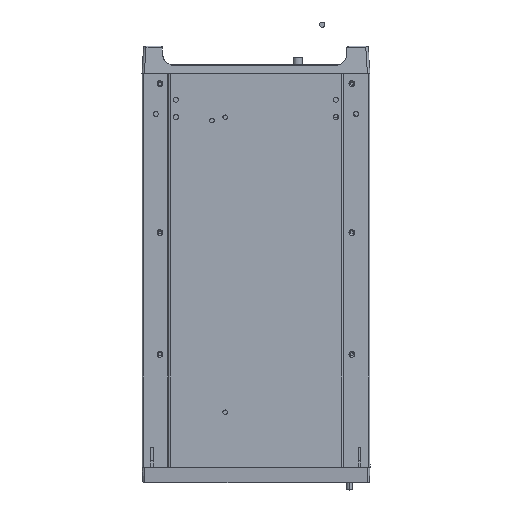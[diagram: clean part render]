
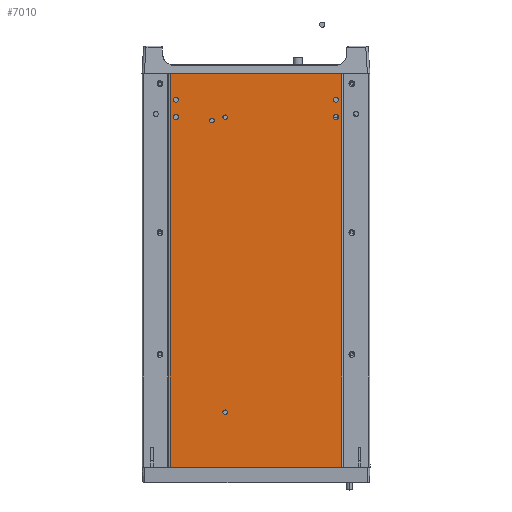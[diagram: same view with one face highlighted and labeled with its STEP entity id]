
A CAD part, front view. The second image highlights one B-rep face of the part: STEP entity #7010.
In plain terms, the highlighted planar face has unit normal (0, -1, 0).
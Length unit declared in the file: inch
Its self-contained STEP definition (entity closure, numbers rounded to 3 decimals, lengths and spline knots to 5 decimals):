
#1997=DIRECTION('',(0.,0.,1.));
#1998=VECTOR('',#1997,14.55);
#1999=CARTESIAN_POINT('',(-3.173,0.,-14.57));
#2000=LINE('',#1999,#1998);
#2006=DIRECTION('',(-1.,0.,0.));
#2007=VECTOR('',#2006,6.346);
#2008=CARTESIAN_POINT('',(3.173,0.,-14.57));
#2009=LINE('',#2008,#2007);
#2010=DIRECTION('',(-1.,0.,0.));
#2011=VECTOR('',#2010,6.346);
#2012=CARTESIAN_POINT('',(3.173,0.,-0.02));
#2013=LINE('',#2012,#2011);
#2014=CARTESIAN_POINT('',(-2.955,0.,-0.99));
#2015=DIRECTION('',(0.,1.,0.));
#2016=DIRECTION('',(1.,0.,0.));
#2017=AXIS2_PLACEMENT_3D('',#2014,#2015,#2016);
#2019=CARTESIAN_POINT('',(-2.955,0.,-0.99));
#2020=DIRECTION('',(0.,1.,0.));
#2021=DIRECTION('',(-1.,0.,0.));
#2022=AXIS2_PLACEMENT_3D('',#2019,#2020,#2021);
#2024=CARTESIAN_POINT('',(2.955,0.,-0.99));
#2025=DIRECTION('',(0.,1.,0.));
#2026=DIRECTION('',(1.,0.,0.));
#2027=AXIS2_PLACEMENT_3D('',#2024,#2025,#2026);
#2029=CARTESIAN_POINT('',(2.955,0.,-0.99));
#2030=DIRECTION('',(0.,1.,0.));
#2031=DIRECTION('',(-1.,0.,0.));
#2032=AXIS2_PLACEMENT_3D('',#2029,#2030,#2031);
#2034=CARTESIAN_POINT('',(-2.955,0.,-1.64));
#2035=DIRECTION('',(0.,1.,0.));
#2036=DIRECTION('',(1.,0.,0.));
#2037=AXIS2_PLACEMENT_3D('',#2034,#2035,#2036);
#2039=CARTESIAN_POINT('',(-2.955,0.,-1.64));
#2040=DIRECTION('',(0.,1.,0.));
#2041=DIRECTION('',(-1.,0.,0.));
#2042=AXIS2_PLACEMENT_3D('',#2039,#2040,#2041);
#2044=CARTESIAN_POINT('',(2.955,0.,-1.64));
#2045=DIRECTION('',(0.,1.,0.));
#2046=DIRECTION('',(1.,0.,0.));
#2047=AXIS2_PLACEMENT_3D('',#2044,#2045,#2046);
#2049=CARTESIAN_POINT('',(2.955,0.,-1.64));
#2050=DIRECTION('',(0.,1.,0.));
#2051=DIRECTION('',(-1.,0.,0.));
#2052=AXIS2_PLACEMENT_3D('',#2049,#2050,#2051);
#2054=CARTESIAN_POINT('',(-1.135,0.,-1.64));
#2055=DIRECTION('',(0.,1.,0.));
#2056=DIRECTION('',(1.,0.,0.));
#2057=AXIS2_PLACEMENT_3D('',#2054,#2055,#2056);
#2059=CARTESIAN_POINT('',(-1.135,0.,-1.64));
#2060=DIRECTION('',(0.,1.,0.));
#2061=DIRECTION('',(-1.,0.,0.));
#2062=AXIS2_PLACEMENT_3D('',#2059,#2060,#2061);
#2064=CARTESIAN_POINT('',(-1.135,0.,-12.54));
#2065=DIRECTION('',(0.,1.,0.));
#2066=DIRECTION('',(1.,0.,0.));
#2067=AXIS2_PLACEMENT_3D('',#2064,#2065,#2066);
#2069=CARTESIAN_POINT('',(-1.135,0.,-12.54));
#2070=DIRECTION('',(0.,1.,0.));
#2071=DIRECTION('',(-1.,0.,0.));
#2072=AXIS2_PLACEMENT_3D('',#2069,#2070,#2071);
#2074=CARTESIAN_POINT('',(-1.625,0.,-1.77));
#2075=DIRECTION('',(0.,1.,0.));
#2076=DIRECTION('',(1.,0.,0.));
#2077=AXIS2_PLACEMENT_3D('',#2074,#2075,#2076);
#2079=CARTESIAN_POINT('',(-1.625,0.,-1.77));
#2080=DIRECTION('',(0.,1.,0.));
#2081=DIRECTION('',(-1.,0.,0.));
#2082=AXIS2_PLACEMENT_3D('',#2079,#2080,#2081);
#2084=DIRECTION('',(0.,0.,1.));
#2085=VECTOR('',#2084,14.55);
#2086=CARTESIAN_POINT('',(3.173,0.,-14.57));
#2087=LINE('',#2086,#2085);
#3394=CARTESIAN_POINT('',(3.173,0.,-14.57));
#3395=CARTESIAN_POINT('',(3.173,0.,-0.02));
#3396=VERTEX_POINT('',#3394);
#3397=VERTEX_POINT('',#3395);
#3406=CARTESIAN_POINT('',(-3.173,0.,-14.57));
#3408=VERTEX_POINT('',#3406);
#3416=CARTESIAN_POINT('',(-3.173,0.,-0.02));
#3417=VERTEX_POINT('',#3416);
#3558=CARTESIAN_POINT('',(-2.8615,0.,-0.99));
#3559=CARTESIAN_POINT('',(-3.0485,0.,-0.99));
#3560=VERTEX_POINT('',#3558);
#3561=VERTEX_POINT('',#3559);
#3562=CARTESIAN_POINT('',(3.0485,0.,-0.99));
#3563=CARTESIAN_POINT('',(2.8615,0.,-0.99));
#3564=VERTEX_POINT('',#3562);
#3565=VERTEX_POINT('',#3563);
#3566=CARTESIAN_POINT('',(-2.8585,0.,-1.64));
#3567=CARTESIAN_POINT('',(-3.0515,0.,-1.64));
#3568=VERTEX_POINT('',#3566);
#3569=VERTEX_POINT('',#3567);
#3570=CARTESIAN_POINT('',(3.0515,0.,-1.64));
#3571=CARTESIAN_POINT('',(2.8585,0.,-1.64));
#3572=VERTEX_POINT('',#3570);
#3573=VERTEX_POINT('',#3571);
#3582=CARTESIAN_POINT('',(-1.052,0.,-1.64));
#3583=CARTESIAN_POINT('',(-1.218,0.,-1.64));
#3584=VERTEX_POINT('',#3582);
#3585=VERTEX_POINT('',#3583);
#3586=CARTESIAN_POINT('',(-1.052,0.,-12.54));
#3587=CARTESIAN_POINT('',(-1.218,0.,-12.54));
#3588=VERTEX_POINT('',#3586);
#3589=VERTEX_POINT('',#3587);
#4094=CARTESIAN_POINT('',(-1.542,0.,-1.77));
#4095=CARTESIAN_POINT('',(-1.708,0.,-1.77));
#4096=VERTEX_POINT('',#4094);
#4097=VERTEX_POINT('',#4095);
#6955=CARTESIAN_POINT('',(3.235,0.,0.));
#6956=DIRECTION('',(0.,-1.,0.));
#6957=DIRECTION('',(-1.,0.,0.));
#6958=AXIS2_PLACEMENT_3D('',#6955,#6956,#6957);
#6959=PLANE('',#6958);
#6961=ORIENTED_EDGE('',*,*,#6960,.F.);
#6962=ORIENTED_EDGE('',*,*,#6946,.T.);
#6963=ORIENTED_EDGE('',*,*,#6935,.T.);
#6965=ORIENTED_EDGE('',*,*,#6964,.F.);
#6966=EDGE_LOOP('',(#6961,#6962,#6963,#6965));
#6967=FACE_OUTER_BOUND('',#6966,.F.);
#6969=ORIENTED_EDGE('',*,*,#6968,.F.);
#6971=ORIENTED_EDGE('',*,*,#6970,.F.);
#6972=EDGE_LOOP('',(#6969,#6971));
#6973=FACE_BOUND('',#6972,.F.);
#6975=ORIENTED_EDGE('',*,*,#6974,.F.);
#6977=ORIENTED_EDGE('',*,*,#6976,.F.);
#6978=EDGE_LOOP('',(#6975,#6977));
#6979=FACE_BOUND('',#6978,.F.);
#6981=ORIENTED_EDGE('',*,*,#6980,.F.);
#6983=ORIENTED_EDGE('',*,*,#6982,.F.);
#6984=EDGE_LOOP('',(#6981,#6983));
#6985=FACE_BOUND('',#6984,.F.);
#6987=ORIENTED_EDGE('',*,*,#6986,.F.);
#6989=ORIENTED_EDGE('',*,*,#6988,.F.);
#6990=EDGE_LOOP('',(#6987,#6989));
#6991=FACE_BOUND('',#6990,.F.);
#6993=ORIENTED_EDGE('',*,*,#6992,.F.);
#6995=ORIENTED_EDGE('',*,*,#6994,.F.);
#6996=EDGE_LOOP('',(#6993,#6995));
#6997=FACE_BOUND('',#6996,.F.);
#6999=ORIENTED_EDGE('',*,*,#6998,.F.);
#7001=ORIENTED_EDGE('',*,*,#7000,.F.);
#7002=EDGE_LOOP('',(#6999,#7001));
#7003=FACE_BOUND('',#7002,.F.);
#7005=ORIENTED_EDGE('',*,*,#7004,.F.);
#7007=ORIENTED_EDGE('',*,*,#7006,.F.);
#7008=EDGE_LOOP('',(#7005,#7007));
#7009=FACE_BOUND('',#7008,.F.);
#7010=ADVANCED_FACE('',(#6967,#6973,#6979,#6985,#6991,#6997,#7003,#7009),#6959,
.T.);
#2018=CIRCLE('',#2017,0.0935);
#2023=CIRCLE('',#2022,0.0935);
#2028=CIRCLE('',#2027,0.0935);
#2033=CIRCLE('',#2032,0.0935);
#2038=CIRCLE('',#2037,0.0965);
#2043=CIRCLE('',#2042,0.0965);
#2048=CIRCLE('',#2047,0.0965);
#2053=CIRCLE('',#2052,0.0965);
#2058=CIRCLE('',#2057,0.083);
#2063=CIRCLE('',#2062,0.083);
#2068=CIRCLE('',#2067,0.083);
#2073=CIRCLE('',#2072,0.083);
#2078=CIRCLE('',#2077,0.083);
#2083=CIRCLE('',#2082,0.083);
#6935=EDGE_CURVE('',#3408,#3417,#2000,.T.);
#6946=EDGE_CURVE('',#3396,#3408,#2009,.T.);
#6960=EDGE_CURVE('',#3396,#3397,#2087,.T.);
#6964=EDGE_CURVE('',#3397,#3417,#2013,.T.);
#6968=EDGE_CURVE('',#3560,#3561,#2018,.T.);
#6970=EDGE_CURVE('',#3561,#3560,#2023,.T.);
#6974=EDGE_CURVE('',#3564,#3565,#2028,.T.);
#6976=EDGE_CURVE('',#3565,#3564,#2033,.T.);
#6980=EDGE_CURVE('',#3568,#3569,#2038,.T.);
#6982=EDGE_CURVE('',#3569,#3568,#2043,.T.);
#6986=EDGE_CURVE('',#3572,#3573,#2048,.T.);
#6988=EDGE_CURVE('',#3573,#3572,#2053,.T.);
#6992=EDGE_CURVE('',#3584,#3585,#2058,.T.);
#6994=EDGE_CURVE('',#3585,#3584,#2063,.T.);
#6998=EDGE_CURVE('',#3588,#3589,#2068,.T.);
#7000=EDGE_CURVE('',#3589,#3588,#2073,.T.);
#7004=EDGE_CURVE('',#4096,#4097,#2078,.T.);
#7006=EDGE_CURVE('',#4097,#4096,#2083,.T.);
